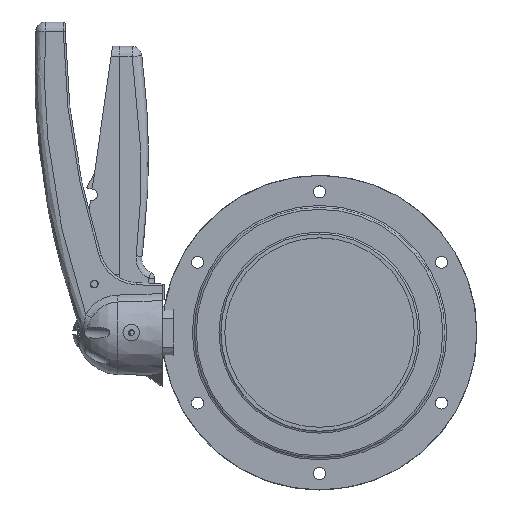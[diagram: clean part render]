
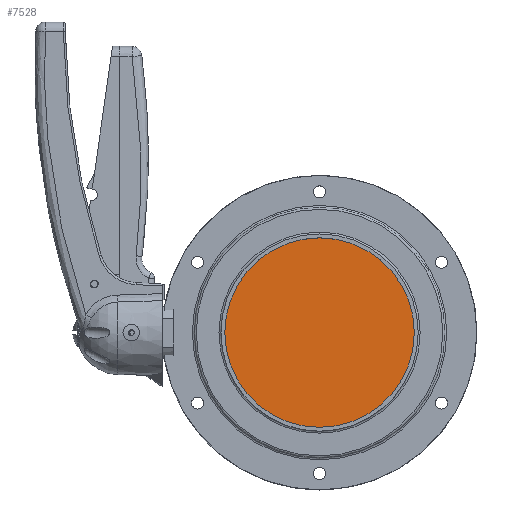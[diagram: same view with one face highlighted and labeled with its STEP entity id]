
A CAD part, top view. The second image highlights one B-rep face of the part: STEP entity #7528.
In plain terms, the highlighted planar face has unit normal (0, 0, 1).
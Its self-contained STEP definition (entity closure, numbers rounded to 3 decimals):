
#611=PLANE('',#8075);
#1039=FACE_OUTER_BOUND('',#1472,.T.);
#1472=EDGE_LOOP('',(#5239,#5240));
#3023=CIRCLE('',#8073,48.8);
#3024=CIRCLE('',#8074,48.8);
#3330=VERTEX_POINT('',#10762);
#3331=VERTEX_POINT('',#10764);
#4072=EDGE_CURVE('',#3331,#3330,#3023,.T.);
#4073=EDGE_CURVE('',#3330,#3331,#3024,.T.);
#5239=ORIENTED_EDGE('',*,*,#4072,.T.);
#5240=ORIENTED_EDGE('',*,*,#4073,.T.);
#7528=ADVANCED_FACE('',(#1039),#611,.T.);
#8073=AXIS2_PLACEMENT_3D('',#10765,#8837,#8838);
#8074=AXIS2_PLACEMENT_3D('',#10766,#8839,#8840);
#8075=AXIS2_PLACEMENT_3D('',#10767,#8841,#8842);
#8837=DIRECTION('center_axis',(0.,0.,1.));
#8838=DIRECTION('ref_axis',(0.,-1.,0.));
#8839=DIRECTION('center_axis',(0.,0.,1.));
#8840=DIRECTION('ref_axis',(0.,-1.,0.));
#8841=DIRECTION('center_axis',(0.,0.,1.));
#8842=DIRECTION('ref_axis',(1.,0.,0.));
#10762=CARTESIAN_POINT('',(0.,48.8,25.));
#10764=CARTESIAN_POINT('',(0.,-48.8,25.));
#10765=CARTESIAN_POINT('Origin',(0.,0.,25.));
#10766=CARTESIAN_POINT('Origin',(0.,0.,25.));
#10767=CARTESIAN_POINT('Origin',(0.,-24.4,25.));
